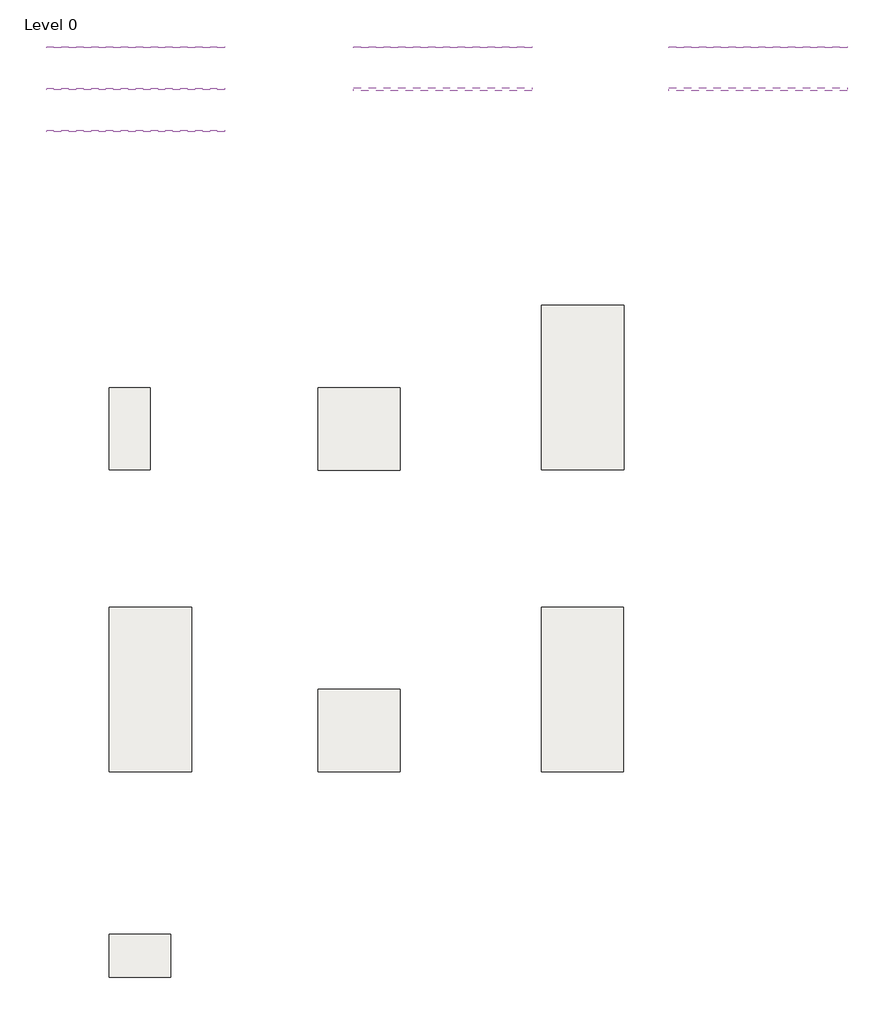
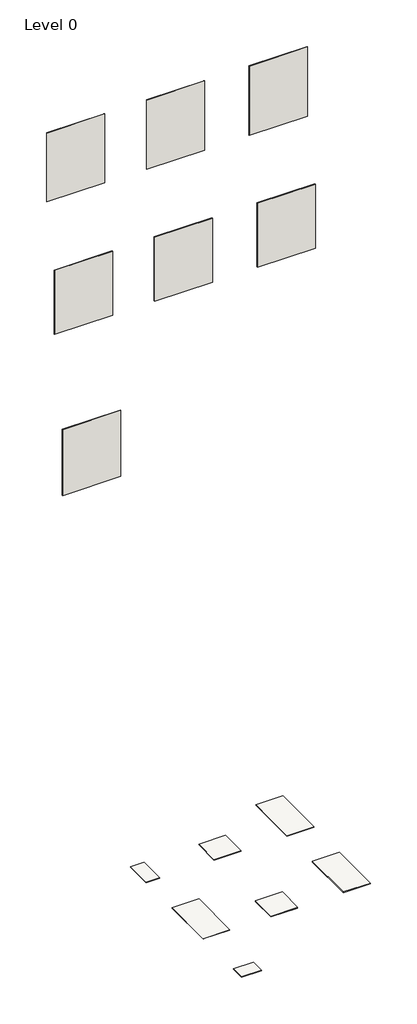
# One storey: 7 slabs, 7 walls.
"""IFC4 building model written with IfcOpenShell, lengths in millimetres."""

import ifcopenshell
import ifcopenshell.guid

model = None  # the IFC model being written
_history = None  # IfcOwnerHistory: only IFC2X3 demands one
_inside = {}  # id of a spatial element -> (the spatial element, [elements in it])
_under = {}  # id of a project, library or spatial element -> (it, [spatial elements below it])
_declared = {}  # id of a project -> (the project, [libraries it declares])
_typed = {}  # id of a type object -> (the type object, [elements of that type])
_made_of = {}  # id of a material, layer set ... -> (it, [elements and type objects made of it])


def new_model(schema):
    """Start an empty IFC model of exactly this schema.

    Asked for "IFC4X3", IfcOpenShell would pick the latest addendum, in which some entities
    have other attributes; the version numbers below select the first issue.
    IFC2X3 requires an IfcOwnerHistory on every rooted entity: one is made here for all.
    """
    global model, _history
    if schema == "IFC4X3":
        model = ifcopenshell.file(schema_version=(4, 3, 0, 0))
    else:
        model = ifcopenshell.file(schema=schema)
    _inside.clear()
    _under.clear()
    _declared.clear()
    _typed.clear()
    _made_of.clear()
    _history = None
    if model.schema == "IFC2X3":
        org = make("IfcOrganization", Name="unknown")
        user = make(
            "IfcPersonAndOrganization",
            ThePerson=make("IfcPerson", FamilyName="unknown"),
            TheOrganization=org,
        )
        app = make(
            "IfcApplication",
            ApplicationDeveloper=org,
            Version="unknown",
            ApplicationFullName="unknown",
            ApplicationIdentifier="unknown",
        )
        _history = make(
            "IfcOwnerHistory",
            OwningUser=user,
            OwningApplication=app,
            ChangeAction="ADDED",
            CreationDate=0,
        )
    return model


def make(cls, **values):
    """One entity of the class cls with the attributes given. An attribute that is None is left unset."""
    return model.create_entity(
        cls, **{name: value for name, value in values.items() if value is not None}
    )


def rooted(cls, **values):
    """An entity with a GlobalId (a new one), such as an element, a storey or a relation."""
    return make(cls, GlobalId=ifcopenshell.guid.new(), OwnerHistory=_history, **values)


def si_unit(unit_type, name, prefix=None):
    """IfcSIUnit, for example si_unit("LENGTHUNIT", "METRE", prefix="MILLI")."""
    return make("IfcSIUnit", UnitType=unit_type, Prefix=prefix, Name=name)


def assignment(units):
    """IfcUnitAssignment: the units of a project."""
    return None if units is None else make("IfcUnitAssignment", Units=units)


def point(xyz):
    """IfcCartesianPoint."""
    return None if xyz is None else make("IfcCartesianPoint", Coordinates=xyz)


def direction(xyz):
    """IfcDirection."""
    return None if xyz is None else make("IfcDirection", DirectionRatios=xyz)


def frame(location, z_axis=None, x_axis=None):
    """IfcAxis2Placement3D, a coordinate frame: its origin and axes. An axis left out is left unset."""
    return make(
        "IfcAxis2Placement3D",
        Location=point(location),
        Axis=direction(z_axis),
        RefDirection=direction(x_axis),
    )


def origin():
    """The frame at (0, 0, 0) with its axes left unset."""
    return frame((0.0, 0.0, 0.0))


def place(relative_to, where):
    """IfcLocalPlacement: puts the frame where relative to a parent placement (None: the world)."""
    return make(
        "IfcLocalPlacement", PlacementRelTo=relative_to, RelativePlacement=where
    )


def context(
    kind, dimensions, precision=None, world=None, true_north=None, identifier=None
):
    """IfcGeometricRepresentationContext, for example the 3D "Model" context."""
    return make(
        "IfcGeometricRepresentationContext",
        ContextIdentifier=identifier,
        ContextType=kind,
        CoordinateSpaceDimension=dimensions,
        Precision=precision,
        WorldCoordinateSystem=world,
        TrueNorth=true_north,
    )


def project(units=None, contexts=None):
    """IfcProject with its units and contexts."""
    return rooted(
        "IfcProject",
        Name="project",
        RepresentationContexts=contexts,
        UnitsInContext=assignment(units),
    )


def spatial(cls, under=None, at=None, **own):
    """A site, building, storey or space (cls), placed at a placement, below another one or the project."""
    s = rooted(cls, ObjectPlacement=at, **own)
    if under is not None:
        _under.setdefault(under.id(), (under, []))[1].append(s)
    return s


def polyline(points):
    """IfcPolyline through the points."""
    return make("IfcPolyline", Points=[point(p) for p in points])


def outline(outer, holes=None, kind="AREA"):
    """IfcArbitraryClosedProfileDef: a profile drawn as a closed curve; with holes, ...WithVoids."""
    if holes is None:
        return make("IfcArbitraryClosedProfileDef", ProfileType=kind, OuterCurve=outer)
    return make(
        "IfcArbitraryProfileDefWithVoids",
        ProfileType=kind,
        OuterCurve=outer,
        InnerCurves=holes,
    )


def extrude(swept, where, along, depth):
    """IfcExtrudedAreaSolid: the profile swept, set in the frame where, extruded along a direction by depth."""
    return make(
        "IfcExtrudedAreaSolid",
        SweptArea=swept,
        Position=where,
        ExtrudedDirection=direction(along),
        Depth=depth,
    )


def shape(context_of_items, identifier, shape_type, items):
    """IfcShapeRepresentation: the items that make up one representation, for example the "Body"."""
    return make(
        "IfcShapeRepresentation",
        ContextOfItems=context_of_items,
        RepresentationIdentifier=identifier,
        RepresentationType=shape_type,
        Items=items,
    )


def made_of(thing, what):
    """Note that an element or type object is made of a material, layer set ...; save() writes the relation."""
    if what is not None:
        _made_of.setdefault(what.id(), (what, []))[1].append(thing)
    return thing


def element(
    cls,
    number,
    at=None,
    inside=None,
    cuts=None,
    type_object=None,
    material=None,
    context=None,
    identifier="Body",
    shape_type=None,
    held_by="IfcProductDefinitionShape",
    body=None,
    shapes=None,
    **own,
):
    """One element of the class cls, such as IfcWall. Its Tag is "e" and its number.

    at: its placement. inside: the storey or other place that contains it. cuts: it is an
    opening in that element (IfcRelVoidsElement). A single representation is given by context,
    identifier, shape_type and body (its items); several are given by shapes. held_by: the class
    of the entity that holds the representations. save() writes the other relations.
    """
    e = rooted(cls, Tag="e%d" % number, ObjectPlacement=at, **own)
    if body is not None:
        shapes = [shape(context, identifier, shape_type, body)]
    if shapes is not None:
        e.Representation = make(held_by, Representations=shapes)
    if inside is not None:
        _inside.setdefault(inside.id(), (inside, []))[1].append(e)
    if cuts is not None:
        rooted(
            "IfcRelVoidsElement", RelatingBuildingElement=cuts, RelatedOpeningElement=e
        )
    if type_object is not None:
        _typed.setdefault(type_object.id(), (type_object, []))[1].append(e)
    return made_of(e, material)


def aggregate(whole, parts):
    """IfcRelAggregates: a whole, such as a stair, and the parts it consists of."""
    return rooted("IfcRelAggregates", RelatingObject=whole, RelatedObjects=parts)


def save(model, path):
    """Write the relations noted so far, then the file.

    IfcRelAggregates (storeys below a building ...), IfcRelContainedInSpatialStructure (elements
    in a storey), IfcRelDefinesByType, IfcRelAssociatesMaterial and IfcRelDeclares: one each for
    every whole, place, type object, material and project.
    """
    for whole, parts in _under.values():
        aggregate(whole, parts)
    for where, things in _inside.values():
        rooted(
            "IfcRelContainedInSpatialStructure",
            RelatedElements=things,
            RelatingStructure=where,
        )
    for kind, things in _typed.values():
        rooted("IfcRelDefinesByType", RelatedObjects=things, RelatingType=kind)
    for what, things in _made_of.values():
        rooted("IfcRelAssociatesMaterial", RelatedObjects=things, RelatingMaterial=what)
    for by, libraries in _declared.values():
        rooted("IfcRelDeclares", RelatingContext=by, RelatedDefinitions=libraries)
    model.write(path)


model = new_model("IFC4")

# Units and contexts
model_context = context("Model", 3, world=origin())
ifc_project = project(units=[si_unit("LENGTHUNIT", "METRE", prefix="MILLI")], contexts=[model_context])

# Site, building, storey
site = spatial("IfcSite", under=ifc_project)
building = spatial("IfcBuilding", under=site)
storey = spatial("IfcBuildingStorey", under=building, Name="Level 0", Elevation=0.0)

# Slabs
placement = place(None, origin())
element("IfcSlab", 1, ObjectType="Floor_Tiles_Refin-Blended-Grey-60x120 OA55", at=placement, inside=storey, context=model_context, shape_type="SweptSolid", body=[
    extrude(outline(polyline([(10127.1861419, 6259.4623743), (10127.1861419, 5059.4623743), (9527.1861419, 5059.4623743), (9527.1861419, 6259.4623743), (10127.1861419, 6259.4623743)])), frame((0.0, 0.0, -10.0), z_axis=(0.0, 0.0, 1.0), x_axis=(1.0, 0.0, 0.0)), (0.0, 0.0, 1.0), 10.0),
])
element("IfcSlab", 2, ObjectType="Floor_Tiles_Refin-Blended-Grey-30x60 OA90", at=placement, inside=storey, context=model_context, shape_type="SweptSolid", body=[
    extrude(outline(polyline([(6674.3752062, 5659.4623743), (6674.3752062, 5059.4623743), (6374.3752062, 5059.4623743), (6374.3752062, 5659.4623743), (6674.3752062, 5659.4623743)])), frame((0.0, 0.0, -10.0), z_axis=(0.0, 0.0, 1.0), x_axis=(1.0, 0.0, 0.0)), (0.0, 0.0, 1.0), 10.0),
])
element("IfcSlab", 3, ObjectType="Floor_Tiles_Refin-Blended-Grey-OUT2.0_60X60_OB60", at=placement, inside=storey, context=model_context, shape_type="SweptSolid", body=[
    extrude(outline(polyline([(8497.3924055, 3459.4623743), (8497.3924055, 2859.4623743), (7897.3924055, 2859.4623743), (7897.3924055, 3459.4623743), (8497.3924055, 3459.4623743)])), frame((0.0, 0.0, -21.0), z_axis=(0.0, 0.0, 1.0), x_axis=(1.0, 0.0, 0.0)), (0.0, 0.0, 1.0), 21.0),
])
element("IfcSlab", 4, ObjectType="Floor_Tiles_Refin-Blended-Grey-GRIP-60x120 OB66", at=placement, inside=storey, context=model_context, shape_type="SweptSolid", body=[
    extrude(outline(polyline([(6974.3752062, 4059.4623743), (6974.3752062, 2859.4623743), (6374.3752062, 2859.4623743), (6374.3752062, 4059.4623743), (6974.3752062, 4059.4623743)])), frame((0.0, 0.0, -10.0), z_axis=(0.0, 0.0, 1.0), x_axis=(1.0, 0.0, 0.0)), (0.0, 0.0, 1.0), 10.0),
])
element("IfcSlab", 5, ObjectType="Floor_Tiles_Refin-Blended-Grey-OUT2.0_60X120_OB62", at=placement, inside=storey, context=model_context, shape_type="SweptSolid", body=[
    extrude(outline(polyline([(10125.4118688, 4059.4623743), (10125.4118688, 2859.4623743), (9525.4118688, 2859.4623743), (9525.4118688, 4059.4623743), (10125.4118688, 4059.4623743)])), frame((0.0, 0.0, -21.0), z_axis=(0.0, 0.0, 1.0), x_axis=(1.0, 0.0, 0.0)), (0.0, 0.0, 1.0), 21.0),
])
element("IfcSlab", 6, ObjectType="Floor_Tiles_Refin-Blended-Grey-60x60 OA85", at=placement, inside=storey, context=model_context, shape_type="SweptSolid", body=[
    extrude(outline(polyline([(8497.3924055, 5658.4192064), (8497.3924055, 5058.4192064), (7897.3924055, 5058.4192064), (7897.3924055, 5658.4192064), (8497.3924055, 5658.4192064)])), frame((0.0, 0.0, -10.0), z_axis=(0.0, 0.0, 1.0), x_axis=(1.0, 0.0, 0.0)), (0.0, 0.0, 1.0), 10.0),
])
element("IfcSlab", 7, ObjectType="Floor_Tiles_Refin-Blended-Grey-MURETTO-3D-31.5x45 NX93", at=placement, inside=storey, context=model_context, shape_type="SweptSolid", body=[
    extrude(outline(polyline([(6824.3752062, 1674.4623743), (6824.3752062, 1359.4623743), (6374.3752062, 1359.4623743), (6374.3752062, 1674.4623743), (6824.3752062, 1674.4623743)])), frame((0.0, 0.0, -11.0), z_axis=(0.0, 0.0, 1.0), x_axis=(1.0, 0.0, 0.0)), (0.0, 0.0, 1.0), 11.0),
])

# Walls
element("IfcWall", 8, ObjectType="Wall_Tiles_Refin-Blended-Grey-60x60 OA85", at=placement, inside=storey, context=model_context, shape_type="SweptSolid", body=[
    extrude(outline(polyline([(9457.3752062, 8132.3838631), (8157.3752062, 8132.3838631), (8157.3752062, 8142.3838631), (9457.3752062, 8142.3838631), (9457.3752062, 8132.3838631)])), frame((0.0, 0.0, 14387.6770443), z_axis=(0.0, 0.0, 1.0), x_axis=(1.0, 0.0, 0.0)), (0.0, 0.0, 1.0), 1641.7417352),
])
element("IfcWall", 9, ObjectType="Wall_Tiles_Refin-Blended-Grey-60x120 OA55", at=placement, inside=storey, context=model_context, shape_type="SweptSolid", body=[
    extrude(outline(polyline([(11757.3752062, 8132.3838631), (10457.3752062, 8132.3838631), (10457.3752062, 8142.3838631), (11757.3752062, 8142.3838631), (11757.3752062, 8132.3838631)])), frame((0.0, 0.0, 14387.6770443), z_axis=(0.0, 0.0, 1.0), x_axis=(1.0, 0.0, 0.0)), (0.0, 0.0, 1.0), 1641.7417352),
])
element("IfcWall", 10, ObjectType="Wall_Tiles_Refin-Blended-Grey-30x60 OA90", at=placement, inside=storey, context=model_context, shape_type="SweptSolid", body=[
    extrude(outline(polyline([(7217.3752062, 8132.3838631), (5917.3752062, 8132.3838631), (5917.3752062, 8142.3838631), (7217.3752062, 8142.3838631), (7217.3752062, 8132.3838631)])), frame((0.0, 0.0, 14403.7267346), z_axis=(0.0, 0.0, 1.0), x_axis=(1.0, 0.0, 0.0)), (0.0, 0.0, 1.0), 1625.692045),
])
element("IfcWall", 11, ObjectType="Wall_Tiles_Refin-Blended-Grey-GRIP-60x120 OB66", at=placement, inside=storey, context=model_context, shape_type="SweptSolid", body=[
    extrude(outline(polyline([(7217.3752062, 7827.3838631), (5917.3752062, 7827.3838631), (5917.3752062, 7837.3838631), (7217.3752062, 7837.3838631), (7217.3752062, 7827.3838631)])), frame((0.0, 0.0, 11452.5436262), z_axis=(0.0, 0.0, 1.0), x_axis=(1.0, 0.0, 0.0)), (0.0, 0.0, 1.0), 1513.1985566),
])
element("IfcWall", 12, ObjectType="Wall_Tiles_Refin-Blended-Grey-OUT2.0-60x60 OB60", at=placement, inside=storey, context=model_context, shape_type="SweptSolid", body=[
    extrude(outline(polyline([(9457.3752062, 7821.8838631), (8157.3752062, 7821.8838631), (8157.3752062, 7842.8838631), (9457.3752062, 7842.8838631), (9457.3752062, 7821.8838631)])), frame((0.0, 0.0, 11452.5436262), z_axis=(0.0, 0.0, 1.0), x_axis=(1.0, 0.0, 0.0)), (0.0, 0.0, 1.0), 1513.1985566),
])
element("IfcWall", 13, ObjectType="Wall_Tiles_Refin-Blended-Grey-OUT2.0-60x120 OB62", at=placement, inside=storey, context=model_context, shape_type="SweptSolid", body=[
    extrude(outline(polyline([(11757.3752062, 7821.8838631), (10457.3752062, 7821.8838631), (10457.3752062, 7842.8838631), (11757.3752062, 7842.8838631), (11757.3752062, 7821.8838631)])), frame((0.0, 0.0, 11452.5436262), z_axis=(0.0, 0.0, 1.0), x_axis=(1.0, 0.0, 0.0)), (0.0, 0.0, 1.0), 1513.1985566),
])
element("IfcWall", 14, ObjectType="Wall_Tiles_Refin-Blended-Grey-MURETTO-3D-31.5x45 NX93", at=placement, inside=storey, context=model_context, shape_type="SweptSolid", body=[
    extrude(outline(polyline([(7217.3752062, 7521.8838631), (5917.3752062, 7521.8838631), (5917.3752062, 7532.8838631), (7217.3752062, 7532.8838631), (7217.3752062, 7521.8838631)])), frame((0.0, 0.0, 7818.2672118), z_axis=(0.0, 0.0, 1.0), x_axis=(1.0, 0.0, 0.0)), (0.0, 0.0, 1.0), 1563.4450605),
])

save(model, "model.ifc")
